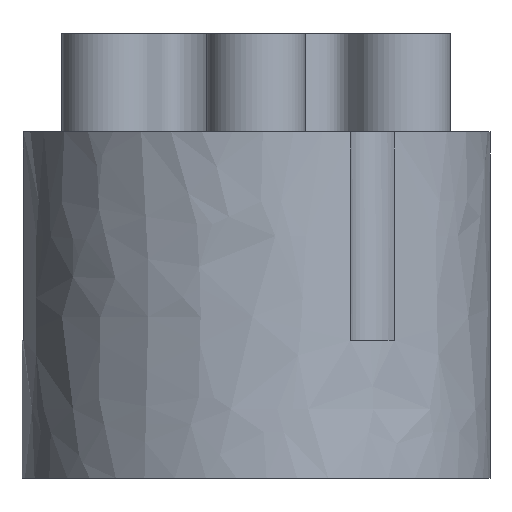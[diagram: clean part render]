
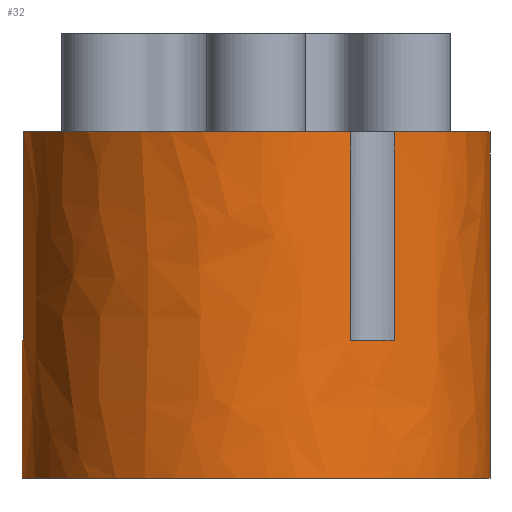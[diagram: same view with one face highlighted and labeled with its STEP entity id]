
A CAD part, front view. The second image highlights one B-rep face of the part: STEP entity #32.
In plain terms, the highlighted free-form (B-spline) face has degree [1, 2] with [2, 5] control points.
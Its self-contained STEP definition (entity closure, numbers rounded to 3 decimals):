
#32=ADVANCED_FACE('',(#47),#248,.T.);
#47=FACE_OUTER_BOUND('',#65,.T.);
#65=EDGE_LOOP('',(#128,#129,#130,#131,#132,#133,#134,#135,#136,#137));
#128=ORIENTED_EDGE('',*,*,#157,.F.);
#129=ORIENTED_EDGE('',*,*,#154,.T.);
#130=ORIENTED_EDGE('',*,*,#156,.F.);
#131=ORIENTED_EDGE('',*,*,#155,.T.);
#132=ORIENTED_EDGE('',*,*,#150,.F.);
#133=ORIENTED_EDGE('',*,*,#145,.T.);
#134=ORIENTED_EDGE('',*,*,#147,.F.);
#135=ORIENTED_EDGE('',*,*,#151,.T.);
#136=ORIENTED_EDGE('',*,*,#138,.T.);
#137=ORIENTED_EDGE('',*,*,#171,.F.);
#138=EDGE_CURVE('',#211,#233,#174,.T.);
#145=EDGE_CURVE('',#215,#216,#181,.T.);
#147=EDGE_CURVE('',#219,#216,#183,.T.);
#150=EDGE_CURVE('',#215,#220,#186,.T.);
#151=EDGE_CURVE('',#219,#211,#187,.T.);
#154=EDGE_CURVE('',#221,#222,#190,.T.);
#155=EDGE_CURVE('',#223,#220,#191,.T.);
#156=EDGE_CURVE('',#223,#222,#192,.T.);
#157=EDGE_CURVE('',#221,#232,#193,.T.);
#171=EDGE_CURVE('',#232,#233,#207,.T.);
#174=(
BOUNDED_CURVE()
B_SPLINE_CURVE(2,(#835,#836,#837,#838,#839),.UNSPECIFIED.,.F.,.F.)
B_SPLINE_CURVE_WITH_KNOTS((3,2,3),(0.,15.708,31.416),
 .UNSPECIFIED.)
CURVE()
GEOMETRIC_REPRESENTATION_ITEM()
RATIONAL_B_SPLINE_CURVE((1.,0.707,1.,0.707,1.))
REPRESENTATION_ITEM('')
);
#181=(
BOUNDED_CURVE()
B_SPLINE_CURVE(1,(#1066,#1067),.UNSPECIFIED.,.F.,.F.)
B_SPLINE_CURVE_WITH_KNOTS((2,2),(4.2,13.1),.UNSPECIFIED.)
CURVE()
GEOMETRIC_REPRESENTATION_ITEM()
RATIONAL_B_SPLINE_CURVE((1.,1.))
REPRESENTATION_ITEM('')
);
#183=(
BOUNDED_CURVE()
B_SPLINE_CURVE(2,(#1070,#1071,#1072),.UNSPECIFIED.,.F.,.F.)
B_SPLINE_CURVE_WITH_KNOTS((3,3),(0.,1.185),.UNSPECIFIED.)
CURVE()
GEOMETRIC_REPRESENTATION_ITEM()
RATIONAL_B_SPLINE_CURVE((1.,0.999,1.))
REPRESENTATION_ITEM('')
);
#186=(
BOUNDED_CURVE()
B_SPLINE_CURVE(2,(#1081,#1082,#1083,#1084,#1085),.UNSPECIFIED.,.F.,.F.)
B_SPLINE_CURVE_WITH_KNOTS((3,2,3),(1.185,15.708,20.006),
 .UNSPECIFIED.)
CURVE()
GEOMETRIC_REPRESENTATION_ITEM()
RATIONAL_B_SPLINE_CURVE((1.,0.745,1.,0.979,1.))
REPRESENTATION_ITEM('')
);
#187=(
BOUNDED_CURVE()
B_SPLINE_CURVE(1,(#1086,#1087),.UNSPECIFIED.,.F.,.F.)
B_SPLINE_CURVE_WITH_KNOTS((2,2),(13.1,19.),.UNSPECIFIED.)
CURVE()
GEOMETRIC_REPRESENTATION_ITEM()
RATIONAL_B_SPLINE_CURVE((1.,1.))
REPRESENTATION_ITEM('')
);
#190=(
BOUNDED_CURVE()
B_SPLINE_CURVE(1,(#1098,#1099),.UNSPECIFIED.,.F.,.F.)
B_SPLINE_CURVE_WITH_KNOTS((2,2),(4.2,13.1),.UNSPECIFIED.)
CURVE()
GEOMETRIC_REPRESENTATION_ITEM()
RATIONAL_B_SPLINE_CURVE((1.,1.))
REPRESENTATION_ITEM('')
);
#191=(
BOUNDED_CURVE()
B_SPLINE_CURVE(1,(#1100,#1101),.UNSPECIFIED.,.F.,.F.)
B_SPLINE_CURVE_WITH_KNOTS((2,2),(-13.1,-4.2),.UNSPECIFIED.)
CURVE()
GEOMETRIC_REPRESENTATION_ITEM()
RATIONAL_B_SPLINE_CURVE((1.,1.))
REPRESENTATION_ITEM('')
);
#192=(
BOUNDED_CURVE()
B_SPLINE_CURVE(2,(#1102,#1103,#1104),.UNSPECIFIED.,.F.,.F.)
B_SPLINE_CURVE_WITH_KNOTS((3,3),(20.006,22.11),
 .UNSPECIFIED.)
CURVE()
GEOMETRIC_REPRESENTATION_ITEM()
RATIONAL_B_SPLINE_CURVE((1.,0.994,1.))
REPRESENTATION_ITEM('')
);
#193=(
BOUNDED_CURVE()
B_SPLINE_CURVE(2,(#1105,#1106,#1107),.UNSPECIFIED.,.F.,.F.)
B_SPLINE_CURVE_WITH_KNOTS((3,3),(22.11,31.416),
 .UNSPECIFIED.)
CURVE()
GEOMETRIC_REPRESENTATION_ITEM()
RATIONAL_B_SPLINE_CURVE((1.,0.892,1.))
REPRESENTATION_ITEM('')
);
#207=(
BOUNDED_CURVE()
B_SPLINE_CURVE(1,(#1361,#1362),.UNSPECIFIED.,.F.,.F.)
B_SPLINE_CURVE_WITH_KNOTS((2,2),(4.2,19.),.UNSPECIFIED.)
CURVE()
GEOMETRIC_REPRESENTATION_ITEM()
RATIONAL_B_SPLINE_CURVE((1.,1.))
REPRESENTATION_ITEM('')
);
#211=VERTEX_POINT('',#812);
#215=VERTEX_POINT('',#816);
#216=VERTEX_POINT('',#817);
#219=VERTEX_POINT('',#820);
#220=VERTEX_POINT('',#821);
#221=VERTEX_POINT('',#822);
#222=VERTEX_POINT('',#823);
#223=VERTEX_POINT('',#824);
#232=VERTEX_POINT('',#833);
#233=VERTEX_POINT('',#834);
#248=(
BOUNDED_SURFACE()
B_SPLINE_SURFACE(1,2,((#801,#802,#803,#804,#805),(#806,#807,#808,#809,#810)),
 .UNSPECIFIED.,.F.,.F.,.F.)
B_SPLINE_SURFACE_WITH_KNOTS((2,2),(3,2,3),(0.,19.),(0.,15.708,
31.416),.UNSPECIFIED.)
GEOMETRIC_REPRESENTATION_ITEM()
RATIONAL_B_SPLINE_SURFACE(((1.,0.707,1.,0.707,1.),
(1.,0.707,1.,0.707,1.)))
REPRESENTATION_ITEM('')
SURFACE()
);
#801=CARTESIAN_POINT('',(-5.013,-279.259,19.));
#802=CARTESIAN_POINT('',(-5.013,-289.259,19.));
#803=CARTESIAN_POINT('',(4.987,-289.259,19.));
#804=CARTESIAN_POINT('',(14.987,-289.259,19.));
#805=CARTESIAN_POINT('',(14.987,-279.259,19.));
#806=CARTESIAN_POINT('',(-5.013,-279.259,0.));
#807=CARTESIAN_POINT('',(-5.013,-289.259,0.));
#808=CARTESIAN_POINT('',(4.987,-289.259,0.));
#809=CARTESIAN_POINT('',(14.987,-289.259,0.));
#810=CARTESIAN_POINT('',(14.987,-279.259,0.));
#812=CARTESIAN_POINT('',(-5.013,-279.259,0.));
#816=CARTESIAN_POINT('',(-4.953,-280.347,14.8));
#817=CARTESIAN_POINT('',(-4.953,-280.347,5.9));
#820=CARTESIAN_POINT('',(-5.013,-279.259,5.9));
#821=CARTESIAN_POINT('',(9.016,-288.412,14.8));
#822=CARTESIAN_POINT('',(10.9,-287.325,14.8));
#823=CARTESIAN_POINT('',(10.9,-287.325,5.9));
#824=CARTESIAN_POINT('',(9.016,-288.412,5.9));
#833=CARTESIAN_POINT('',(14.987,-279.259,14.8));
#834=CARTESIAN_POINT('',(14.987,-279.259,0.));
#835=CARTESIAN_POINT('',(-5.013,-279.259,0.));
#836=CARTESIAN_POINT('',(-5.013,-289.259,0.));
#837=CARTESIAN_POINT('',(4.987,-289.259,0.));
#838=CARTESIAN_POINT('',(14.987,-289.259,0.));
#839=CARTESIAN_POINT('',(14.987,-279.259,0.));
#1066=CARTESIAN_POINT('',(-4.953,-280.347,14.8));
#1067=CARTESIAN_POINT('',(-4.953,-280.347,5.9));
#1070=CARTESIAN_POINT('',(-5.013,-279.259,5.9));
#1071=CARTESIAN_POINT('',(-5.013,-279.805,5.9));
#1072=CARTESIAN_POINT('',(-4.953,-280.347,5.9));
#1081=CARTESIAN_POINT('',(-4.953,-280.347,14.8));
#1082=CARTESIAN_POINT('',(-3.978,-289.259,14.8));
#1083=CARTESIAN_POINT('',(4.987,-289.259,14.8));
#1084=CARTESIAN_POINT('',(7.091,-289.259,14.8));
#1085=CARTESIAN_POINT('',(9.016,-288.412,14.8));
#1086=CARTESIAN_POINT('',(-5.013,-279.259,5.9));
#1087=CARTESIAN_POINT('',(-5.013,-279.259,0.));
#1098=CARTESIAN_POINT('',(10.9,-287.325,14.8));
#1099=CARTESIAN_POINT('',(10.9,-287.325,5.9));
#1100=CARTESIAN_POINT('',(9.016,-288.412,5.9));
#1101=CARTESIAN_POINT('',(9.016,-288.412,14.8));
#1102=CARTESIAN_POINT('',(9.016,-288.412,5.9));
#1103=CARTESIAN_POINT('',(10.017,-287.971,5.9));
#1104=CARTESIAN_POINT('',(10.9,-287.325,5.9));
#1105=CARTESIAN_POINT('',(10.9,-287.325,14.8));
#1106=CARTESIAN_POINT('',(14.987,-284.328,14.8));
#1107=CARTESIAN_POINT('',(14.987,-279.259,14.8));
#1361=CARTESIAN_POINT('',(14.987,-279.259,14.8));
#1362=CARTESIAN_POINT('',(14.987,-279.259,0.));
